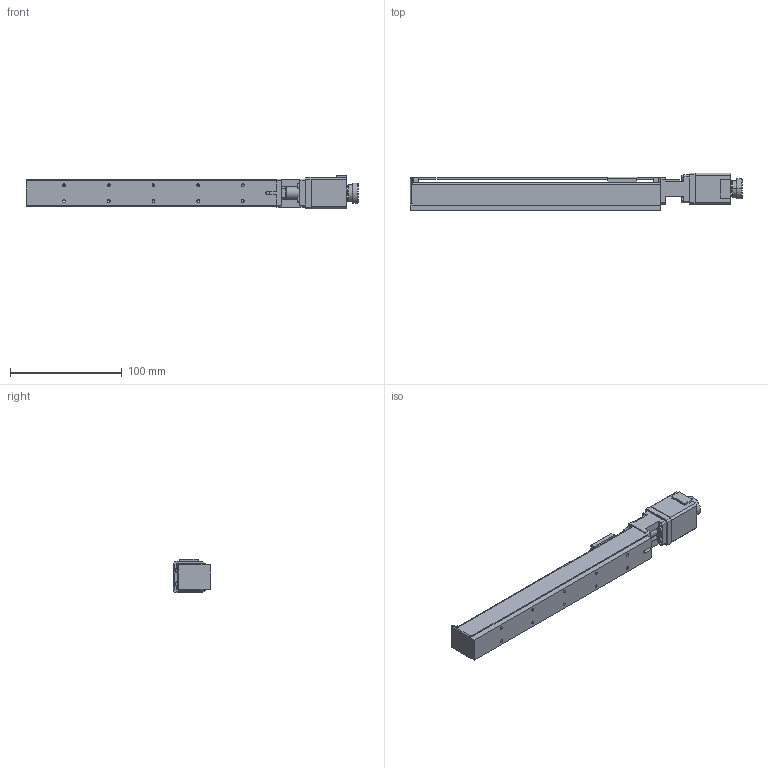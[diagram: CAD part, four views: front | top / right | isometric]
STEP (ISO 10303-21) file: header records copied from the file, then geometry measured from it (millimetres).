
FILE_DESCRIPTION (( 'STEP AP203' ), '1' );
FILE_NAME ('FAS-160-ER.STEP', '2015-08-25T04:57:51', ( '' ), ( '' ), 'SwSTEP 2.0', 'SolidWorks 2015', '' );
FILE_SCHEMA (( 'CONFIG_CONTROL_DESIGN' ));
Length unit declared in the file: millimetre
Products named in the file (1): FAS-160-ER
Bounding box: 297 x 33.5 x 30 mm (x, y, z)
Volume: 98056 mm3; surface area: 57453.9 mm2
Topology: 5 solids, 9 shells, 257 faces, 651 edges, 418 vertices
Faces by surface type: plane 147, cylinder 94, cone 14, sphere 2
Entity records: 7824 total; most frequent: DIRECTION 1349, CARTESIAN_POINT 1349, ORIENTED_EDGE 1298, EDGE_CURVE 649, AXIS2_PLACEMENT_3D 450, LINE 449, VECTOR 449, VERTEX_POINT 418
